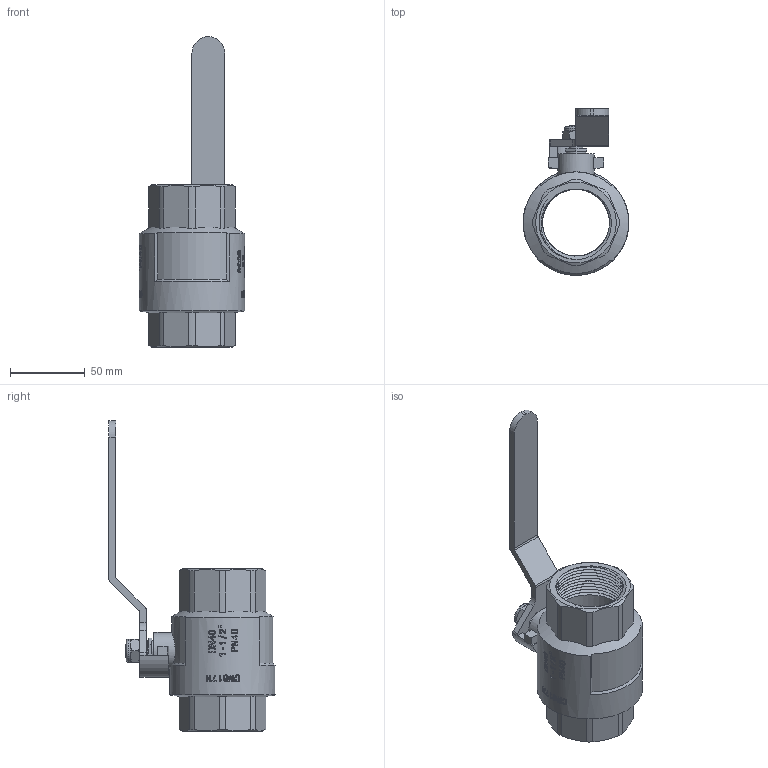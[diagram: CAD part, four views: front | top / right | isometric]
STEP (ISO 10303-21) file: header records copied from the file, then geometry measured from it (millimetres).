
FILE_DESCRIPTION(/* description */ (''),/* implementation_level */ '2;1');
FILE_NAME(/* name */ 'F:\Артём\00000\Работа удаленка\0\B\VT.314.N.08.stp',/* time_stamp */ '2021-02-03T15:44:14+03:00',/* author */ ('almis'),/* organization */ (''),/* preprocessor_version */ 'ST-DEVELOPER v18',/* originating_system */ 'Autodesk Inventor 2020',/* authorisation */ '');
FILE_SCHEMA (('AUTOMOTIVE_DESIGN { 1 0 10303 214 3 1 1 }'));
Length unit declared in the file: millimetre
Products named in the file (1): VT.314_ВВ_1-1%2
Bounding box: 70.7 x 111.39 x 207.89 mm (x, y, z)
Volume: 202552.5 mm3; surface area: 63328.4 mm2
Topology: 1 solids, 1 shells, 583 faces, 1565 edges, 1043 vertices
Faces by surface type: plane 239, bspline 195, cylinder 137, cone 10, torus 2
Full cylindrical faces by diameter (mm): 9.493 x1, 13.221 x1, 15.324 x1, 24.5 x1, 44.8 x20, 49.4 x23, 70.5 x1
Entity records: 27876 total; most frequent: CARTESIAN_POINT 14628, ORIENTED_EDGE 3130, DIRECTION 2086, EDGE_CURVE 1565, VERTEX_POINT 1043, LINE 734, VECTOR 734, AXIS2_PLACEMENT_3D 676
